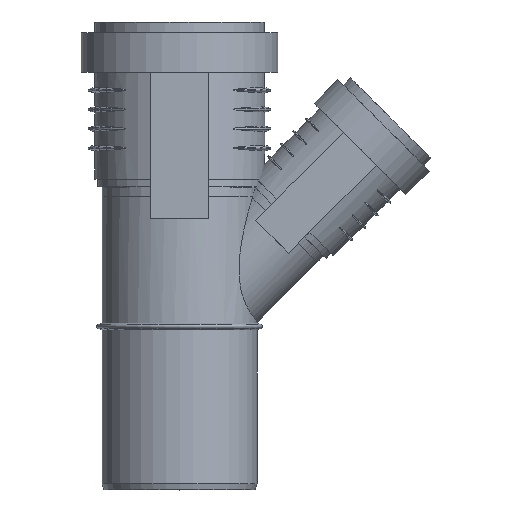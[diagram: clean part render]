
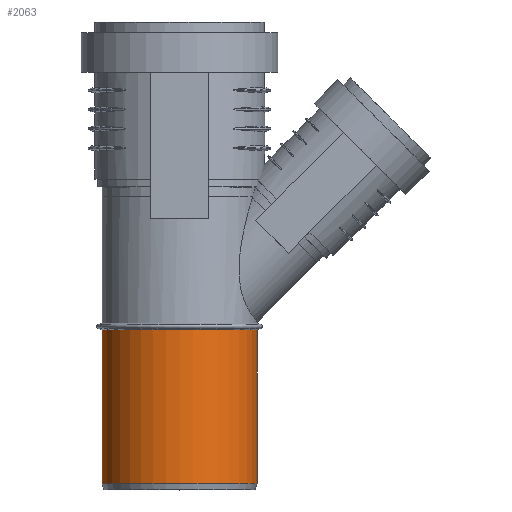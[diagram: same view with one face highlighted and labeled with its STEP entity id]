
A CAD part, top view. The second image highlights one B-rep face of the part: STEP entity #2063.
In plain terms, the highlighted cylindrical face has radius 25.075 mm (diameter 50.15 mm), a full revolution.
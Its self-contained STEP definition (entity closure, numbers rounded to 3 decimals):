
#368=CYLINDRICAL_SURFACE($,#2200,25.075);
#403=FACE_BOUND($,#592,.T.);
#474=FACE_OUTER_BOUND($,#591,.T.);
#591=EDGE_LOOP($,(#1369));
#592=EDGE_LOOP($,(#1370));
#776=CIRCLE($,#2198,25.075);
#778=CIRCLE($,#2201,25.075);
#876=VERTEX_POINT($,#2987);
#878=VERTEX_POINT($,#2992);
#1086=EDGE_CURVE($,#876,#876,#776,.T.);
#1088=EDGE_CURVE($,#878,#878,#778,.T.);
#1369=ORIENTED_EDGE($,*,*,#1088,.T.);
#1370=ORIENTED_EDGE($,*,*,#1086,.F.);
#2063=ADVANCED_FACE($,(#474,#403),#368,.T.);
#2198=AXIS2_PLACEMENT_3D($,#2988,#2439,#2440);
#2200=AXIS2_PLACEMENT_3D($,#2991,#2443,#2444);
#2201=AXIS2_PLACEMENT_3D($,#2993,#2445,#2446);
#2439=DIRECTION('center_axis',(0.,-1.,0.));
#2440=DIRECTION('ref_axis',(1.,0.,0.));
#2443=DIRECTION('center_axis',(0.,1.,0.));
#2444=DIRECTION('ref_axis',(1.,0.,0.));
#2445=DIRECTION('center_axis',(0.,-1.,0.));
#2446=DIRECTION('ref_axis',(1.,0.,0.));
#2987=CARTESIAN_POINT('',(-25.075,2.,0.));
#2988=CARTESIAN_POINT('Origin',(0.,2.,0.));
#2991=CARTESIAN_POINT('Origin',(0.,0.,0.));
#2992=CARTESIAN_POINT('',(-25.075,51.8,0.));
#2993=CARTESIAN_POINT('Origin',(0.,51.8,0.));
